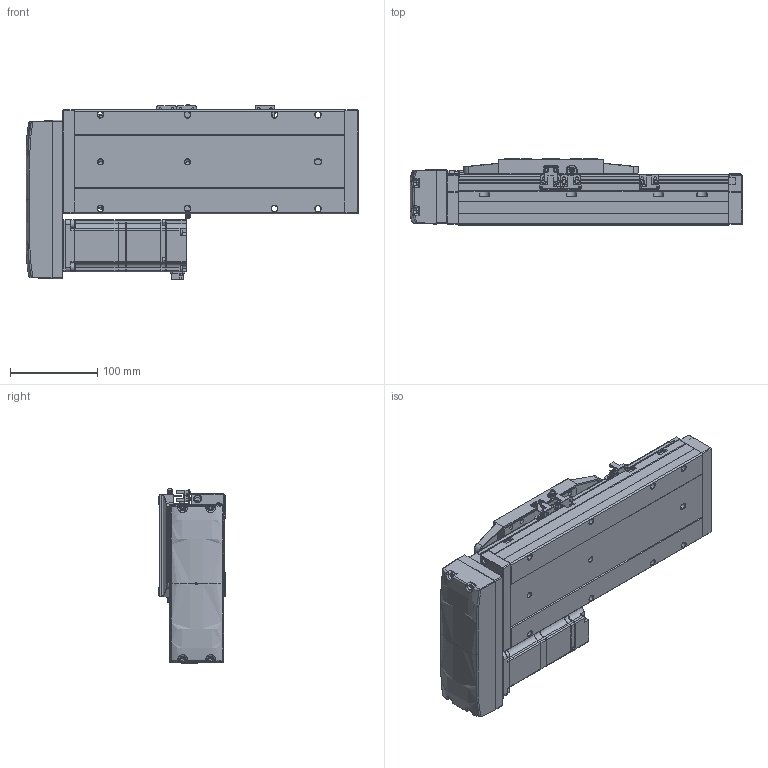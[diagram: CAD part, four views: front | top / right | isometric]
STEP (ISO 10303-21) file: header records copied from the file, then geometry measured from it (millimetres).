
FILE_DESCRIPTION (( 'STEP AP214' ), '1' );
FILE_NAME ('CTH12-L10-S100-BR-C40（简）.STEP', '2023-02-04T07:10:46', ( '' ), ( '' ), 'SwSTEP 2.0', 'SolidWorks 2018', '' );
FILE_SCHEMA (( 'AUTOMOTIVE_DESIGN' ));
Length unit declared in the file: millimetre
Products named in the file (24): 嫖萇羲壽郪磁1; 湮賑怢  裔赽-1(CTH12)賑怢; CTH12賑怢郪磁; 内六角圆柱头螺钉M3-1; CTH12覜茼え; CTH12賑怢ㄗ潠ㄘ; CTH12-L10-S100-BR-C40（简）; M5蹟隊; CTH12_body_3; 蚐郲; CTH12侧装连接板（标准）简; CTH12-BL_body_4; CTH嫖萇羲壽假蚾啣; 内六角圆柱头螺钉M3-2; CTH12底座-L311简（100行程）; 内六角圆柱头螺钉M3; 嫖萇羲壽郪磁2; CTH12; CTH400W假蚾啣; PM-Y45; AC60_Valor predeterminado; CTH12耜蚾裔; CTH400W垫板（3个厚）; hex nuts, style 1-grades ab gb_GB_FASTENER_NUT_SNAB1 M3-N
Assembly tree (44 placements, depth 4):
  CTH12-L10-S100-BR-C40（简）
    CTH12底座-L311简（100行程）
    蚐郲  x2
    CTH12_body_3
    CTH12-BL_body_4
    CTH12侧装连接板（标准）简
    CTH12耜蚾裔
    CTH12賑怢郪磁
      CTH12
        湮賑怢  裔赽-1(CTH12)賑怢
        CTH12賑怢ㄗ潠ㄘ
    CTH12覜茼え
    嫖萇羲壽郪磁1  x2
      CTH嫖萇羲壽假蚾啣
      PM-Y45
      内六角圆柱头螺钉M3-2
      内六角圆柱头螺钉M3-1
      hex nuts, style 1-grades ab gb_GB_FASTENER_NUT_SNAB1 M3-N
    嫖萇羲壽郪磁2
      CTH嫖萇羲壽假蚾啣
      PM-Y45
      内六角圆柱头螺钉M3-1  x2
      内六角圆柱头螺钉M3-2  x2
      hex nuts, style 1-grades ab gb_GB_FASTENER_NUT_SNAB1 M3-N  x2
    CTH400W垫板（3个厚）
    AC60_Valor predeterminado
    内六角圆柱头螺钉M3  x6
    M5蹟隊  x4
    CTH400W假蚾啣
Bounding box: 381.5 x 76 x 201.06 mm (x, y, z)
Volume: 3109379.2 mm3; surface area: 419694.7 mm2
Topology: 47 solids, 48 shells, 2624 faces, 6679 edges, 4273 vertices
Faces by surface type: plane 1455, cylinder 744, cone 283, bspline 90, torus 52
Entity records: 74677 total; most frequent: CARTESIAN_POINT 20190, ORIENTED_EDGE 10538, DIRECTION 10224, EDGE_CURVE 5269, AXIS2_PLACEMENT_3D 3440, VERTEX_POINT 3377, LINE 3344, VECTOR 3344
